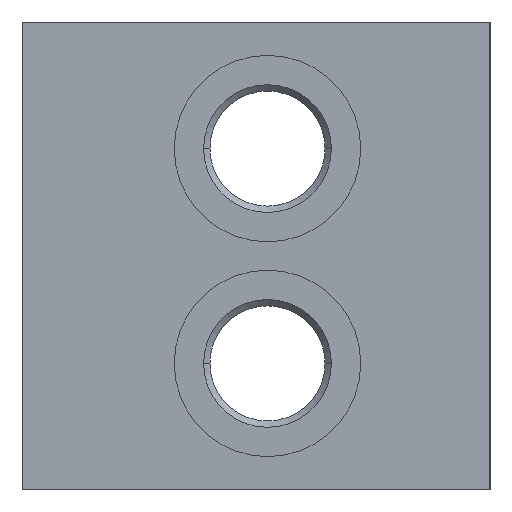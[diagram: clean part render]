
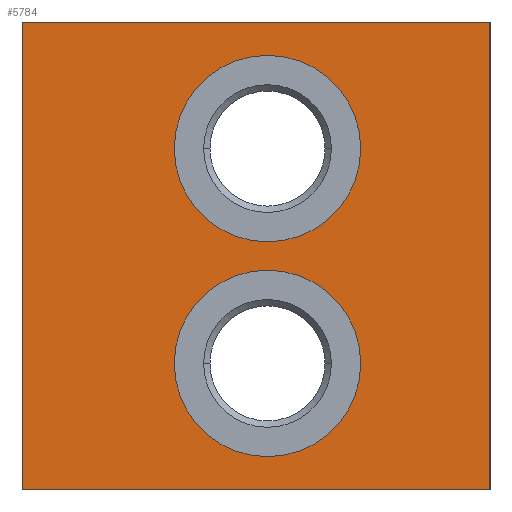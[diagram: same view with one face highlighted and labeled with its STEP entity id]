
A CAD part, left-side view. The second image highlights one B-rep face of the part: STEP entity #5784.
In plain terms, the highlighted planar face has unit normal (-1, 0, 0).
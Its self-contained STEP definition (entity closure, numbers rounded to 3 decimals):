
#25=DIRECTION('',(0.,-1.,0.));
#26=VECTOR('',#25,61.);
#27=CARTESIAN_POINT('',(0.,61.,0.));
#28=LINE('',#27,#26);
#157=DIRECTION('',(0.,0.,-1.));
#158=VECTOR('',#157,61.);
#159=CARTESIAN_POINT('',(0.,0.,0.));
#160=LINE('',#159,#158);
#1177=DIRECTION('',(0.,0.,-1.));
#1178=VECTOR('',#1177,61.);
#1179=CARTESIAN_POINT('',(0.,61.,0.));
#1180=LINE('',#1179,#1178);
#1181=CARTESIAN_POINT('',(0.,29.,-44.5));
#1182=DIRECTION('',(1.,0.,0.));
#1183=DIRECTION('',(0.,-1.,0.));
#1184=AXIS2_PLACEMENT_3D('',#1181,#1182,#1183);
#1186=CARTESIAN_POINT('',(0.,29.,-44.5));
#1187=DIRECTION('',(1.,0.,0.));
#1188=DIRECTION('',(0.,1.,0.));
#1189=AXIS2_PLACEMENT_3D('',#1186,#1187,#1188);
#1191=CARTESIAN_POINT('',(0.,29.,-16.5));
#1192=DIRECTION('',(1.,0.,0.));
#1193=DIRECTION('',(0.,-1.,0.));
#1194=AXIS2_PLACEMENT_3D('',#1191,#1192,#1193);
#1196=CARTESIAN_POINT('',(0.,29.,-16.5));
#1197=DIRECTION('',(1.,0.,0.));
#1198=DIRECTION('',(0.,1.,0.));
#1199=AXIS2_PLACEMENT_3D('',#1196,#1197,#1198);
#1213=DIRECTION('',(0.,-1.,0.));
#1214=VECTOR('',#1213,61.);
#1215=CARTESIAN_POINT('',(0.,61.,-61.));
#1216=LINE('',#1215,#1214);
#4463=CARTESIAN_POINT('',(0.,0.,0.));
#4465=VERTEX_POINT('',#4463);
#4469=CARTESIAN_POINT('',(0.,61.,0.));
#4470=VERTEX_POINT('',#4469);
#4471=CARTESIAN_POINT('',(0.,0.,-61.));
#4473=VERTEX_POINT('',#4471);
#4477=CARTESIAN_POINT('',(0.,61.,-61.));
#4478=VERTEX_POINT('',#4477);
#4491=CARTESIAN_POINT('',(0.,16.85,-44.5));
#4492=CARTESIAN_POINT('',(0.,41.15,-44.5));
#4493=VERTEX_POINT('',#4491);
#4494=VERTEX_POINT('',#4492);
#4507=CARTESIAN_POINT('',(0.,16.85,-16.5));
#4508=CARTESIAN_POINT('',(0.,41.15,-16.5));
#4509=VERTEX_POINT('',#4507);
#4510=VERTEX_POINT('',#4508);
#5760=CARTESIAN_POINT('',(0.,61.,0.));
#5761=DIRECTION('',(-1.,0.,0.));
#5762=DIRECTION('',(0.,-1.,0.));
#5763=AXIS2_PLACEMENT_3D('',#5760,#5761,#5762);
#5764=PLANE('',#5763);
#5765=ORIENTED_EDGE('',*,*,#5312,.T.);
#5766=ORIENTED_EDGE('',*,*,#5403,.T.);
#5768=ORIENTED_EDGE('',*,*,#5767,.F.);
#5769=ORIENTED_EDGE('',*,*,#5452,.F.);
#5770=EDGE_LOOP('',(#5765,#5766,#5768,#5769));
#5771=FACE_OUTER_BOUND('',#5770,.F.);
#5773=ORIENTED_EDGE('',*,*,#5772,.F.);
#5775=ORIENTED_EDGE('',*,*,#5774,.F.);
#5776=EDGE_LOOP('',(#5773,#5775));
#5777=FACE_BOUND('',#5776,.F.);
#5779=ORIENTED_EDGE('',*,*,#5778,.F.);
#5781=ORIENTED_EDGE('',*,*,#5780,.F.);
#5782=EDGE_LOOP('',(#5779,#5781));
#5783=FACE_BOUND('',#5782,.F.);
#1185=CIRCLE('',#1184,12.15);
#1190=CIRCLE('',#1189,12.15);
#1195=CIRCLE('',#1194,12.15);
#1200=CIRCLE('',#1199,12.15);
#5312=EDGE_CURVE('',#4470,#4465,#28,.T.);
#5403=EDGE_CURVE('',#4465,#4473,#160,.T.);
#5452=EDGE_CURVE('',#4470,#4478,#1180,.T.);
#5767=EDGE_CURVE('',#4478,#4473,#1216,.T.);
#5772=EDGE_CURVE('',#4493,#4494,#1185,.T.);
#5774=EDGE_CURVE('',#4494,#4493,#1190,.T.);
#5778=EDGE_CURVE('',#4509,#4510,#1195,.T.);
#5780=EDGE_CURVE('',#4510,#4509,#1200,.T.);
#5784=ADVANCED_FACE('',(#5771,#5777,#5783),#5764,.T.);
